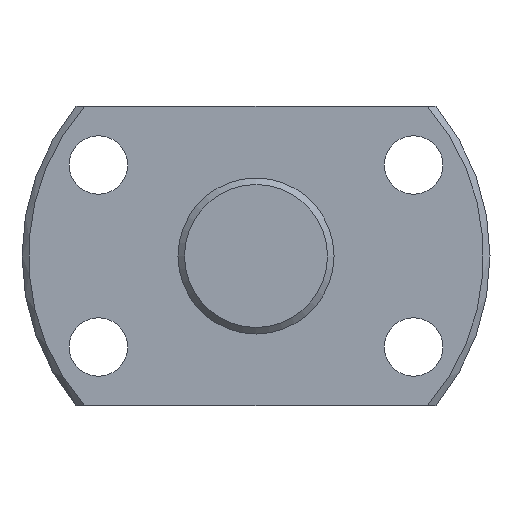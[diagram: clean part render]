
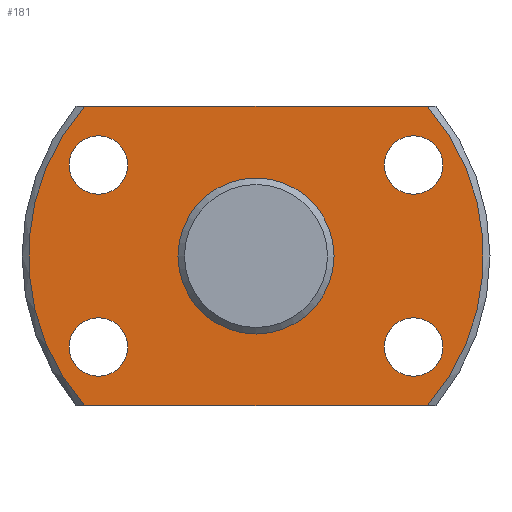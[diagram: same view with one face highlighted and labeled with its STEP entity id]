
A CAD part, left-side view. The second image highlights one B-rep face of the part: STEP entity #181.
In plain terms, the highlighted planar face has unit normal (-1, 0, 0).
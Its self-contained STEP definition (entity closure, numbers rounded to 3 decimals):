
#181 = ADVANCED_FACE( '', ( #229, #230, #231, #232, #233, #234 ), #235, .T. );
#229 = FACE_BOUND( '', #303, .T. );
#230 = FACE_OUTER_BOUND( '', #304, .T. );
#231 = FACE_BOUND( '', #305, .T. );
#232 = FACE_BOUND( '', #306, .T. );
#233 = FACE_BOUND( '', #307, .T. );
#234 = FACE_BOUND( '', #308, .T. );
#235 = PLANE( '', #309 );
#303 = EDGE_LOOP( '', ( #422 ) );
#304 = EDGE_LOOP( '', ( #423, #424, #425, #426 ) );
#305 = EDGE_LOOP( '', ( #427 ) );
#306 = EDGE_LOOP( '', ( #428 ) );
#307 = EDGE_LOOP( '', ( #429 ) );
#308 = EDGE_LOOP( '', ( #430 ) );
#309 = AXIS2_PLACEMENT_3D( '', #431, #432, #433 );
#422 = ORIENTED_EDGE( '', *, *, #534, .T. );
#423 = ORIENTED_EDGE( '', *, *, #535, .F. );
#424 = ORIENTED_EDGE( '', *, *, #536, .F. );
#425 = ORIENTED_EDGE( '', *, *, #511, .F. );
#426 = ORIENTED_EDGE( '', *, *, #532, .F. );
#427 = ORIENTED_EDGE( '', *, *, #537, .T. );
#428 = ORIENTED_EDGE( '', *, *, #538, .T. );
#429 = ORIENTED_EDGE( '', *, *, #539, .T. );
#430 = ORIENTED_EDGE( '', *, *, #540, .T. );
#431 = CARTESIAN_POINT( '', ( 0., 17.5, 0. ) );
#432 = DIRECTION( '', ( -1., 0., 0. ) );
#433 = DIRECTION( '', ( 0., 0., 1. ) );
#511 = EDGE_CURVE( '', #560, #562, #563, .T. );
#532 = EDGE_CURVE( '', #597, #560, #600, .T. );
#534 = EDGE_CURVE( '', #602, #602, #603, .T. );
#535 = EDGE_CURVE( '', #604, #597, #605, .T. );
#536 = EDGE_CURVE( '', #562, #604, #606, .T. );
#537 = EDGE_CURVE( '', #607, #607, #608, .T. );
#538 = EDGE_CURVE( '', #609, #609, #610, .T. );
#539 = EDGE_CURVE( '', #611, #611, #612, .T. );
#540 = EDGE_CURVE( '', #613, #613, #614, .T. );
#560 = VERTEX_POINT( '', #642 );
#562 = VERTEX_POINT( '', #647 );
#563 = LINE( '', #648, #649 );
#597 = VERTEX_POINT( '', #699 );
#600 = CIRCLE( '', #705, 17.5 );
#602 = VERTEX_POINT( '', #707 );
#603 = CIRCLE( '', #708, 6. );
#604 = VERTEX_POINT( '', #709 );
#605 = LINE( '', #710, #711 );
#606 = CIRCLE( '', #712, 17.5 );
#607 = VERTEX_POINT( '', #713 );
#608 = CIRCLE( '', #714, 2.25 );
#609 = VERTEX_POINT( '', #715 );
#610 = CIRCLE( '', #716, 2.25 );
#611 = VERTEX_POINT( '', #717 );
#612 = CIRCLE( '', #718, 2.25 );
#613 = VERTEX_POINT( '', #719 );
#614 = CIRCLE( '', #720, 2.25 );
#642 = CARTESIAN_POINT( '', ( 0., -13.191, -11.5 ) );
#647 = CARTESIAN_POINT( '', ( 0., 13.191, -11.5 ) );
#648 = CARTESIAN_POINT( '', ( 0., -18., -11.5 ) );
#649 = VECTOR( '', #748, 1000. );
#699 = CARTESIAN_POINT( '', ( 0., -13.191, 11.5 ) );
#705 = AXIS2_PLACEMENT_3D( '', #786, #787, #788 );
#707 = CARTESIAN_POINT( '', ( 0., 0., -6. ) );
#708 = AXIS2_PLACEMENT_3D( '', #792, #793, #794 );
#709 = CARTESIAN_POINT( '', ( 0., 13.191, 11.5 ) );
#710 = CARTESIAN_POINT( '', ( 0., 18., 11.5 ) );
#711 = VECTOR( '', #795, 1000. );
#712 = AXIS2_PLACEMENT_3D( '', #796, #797, #798 );
#713 = CARTESIAN_POINT( '', ( 0., 12.124, 4.75 ) );
#714 = AXIS2_PLACEMENT_3D( '', #799, #800, #801 );
#715 = CARTESIAN_POINT( '', ( 0., -12.124, 4.75 ) );
#716 = AXIS2_PLACEMENT_3D( '', #802, #803, #804 );
#717 = CARTESIAN_POINT( '', ( 0., -12.124, -9.25 ) );
#718 = AXIS2_PLACEMENT_3D( '', #805, #806, #807 );
#719 = CARTESIAN_POINT( '', ( 0., 12.124, -9.25 ) );
#720 = AXIS2_PLACEMENT_3D( '', #808, #809, #810 );
#748 = DIRECTION( '', ( 0., 1., 0. ) );
#786 = CARTESIAN_POINT( '', ( 0., 0., 0. ) );
#787 = DIRECTION( '', ( 1., 0., 0. ) );
#788 = DIRECTION( '', ( 0., 0., -1. ) );
#792 = CARTESIAN_POINT( '', ( 0., 0., 0. ) );
#793 = DIRECTION( '', ( 1., 0., 0. ) );
#794 = DIRECTION( '', ( 0., 0., -1. ) );
#795 = DIRECTION( '', ( 0., -1., 0. ) );
#796 = CARTESIAN_POINT( '', ( 0., 0., 0. ) );
#797 = DIRECTION( '', ( 1., 0., 0. ) );
#798 = DIRECTION( '', ( 0., 0., -1. ) );
#799 = CARTESIAN_POINT( '', ( 0., 12.124, 7. ) );
#800 = DIRECTION( '', ( 1., 0., 0. ) );
#801 = DIRECTION( '', ( 0., 0., -1. ) );
#802 = CARTESIAN_POINT( '', ( 0., -12.124, 7. ) );
#803 = DIRECTION( '', ( 1., 0., 0. ) );
#804 = DIRECTION( '', ( 0., 0., -1. ) );
#805 = CARTESIAN_POINT( '', ( 0., -12.124, -7. ) );
#806 = DIRECTION( '', ( 1., 0., 0. ) );
#807 = DIRECTION( '', ( 0., 0., -1. ) );
#808 = CARTESIAN_POINT( '', ( 0., 12.124, -7. ) );
#809 = DIRECTION( '', ( 1., 0., 0. ) );
#810 = DIRECTION( '', ( 0., 0., -1. ) );
